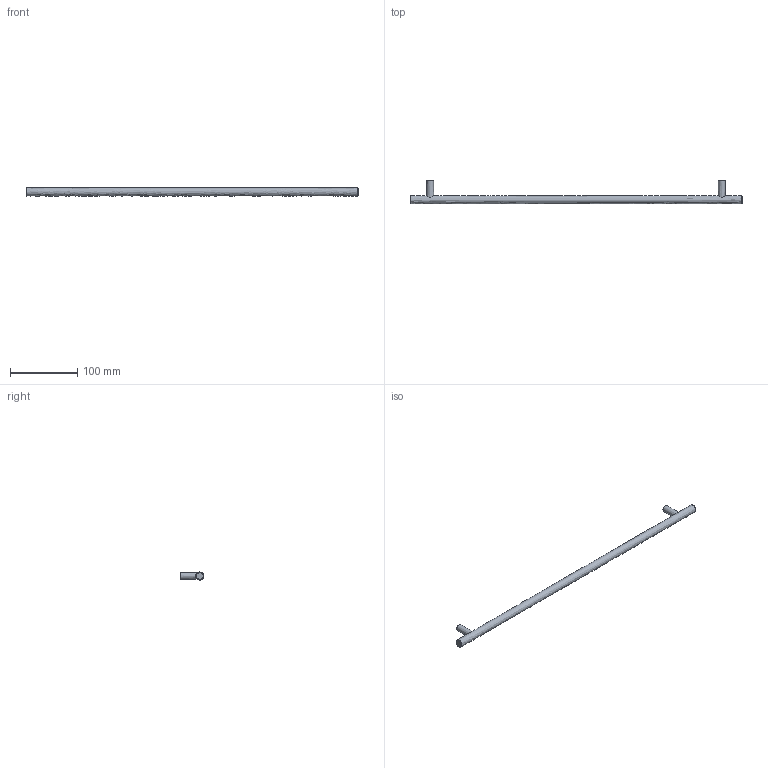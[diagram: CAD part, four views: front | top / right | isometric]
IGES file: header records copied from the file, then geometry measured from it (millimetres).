
Start section: Data from Parasolid IGES Translator 15.0.47, Copyright(c) 2006 Siemens P LM Software. All Rights Reserved.
Global section: file name: 9070736.igs; native system:  By UGS Corp.; preprocessor: XPlus GENERIC/IGES 3.0; author: Noname; organization: Noname; date: 20140123.103920; units: millimetre
Bounding box: 494 x 35 x 12 mm (x, y, z)
Surface area: 20521.1 mm2 (no closed solid volume)
Topology: 0 solids, 0 shells, 13 faces, 42 edges, 34 vertices
Faces by surface type: revolution 7, extrusion 6
